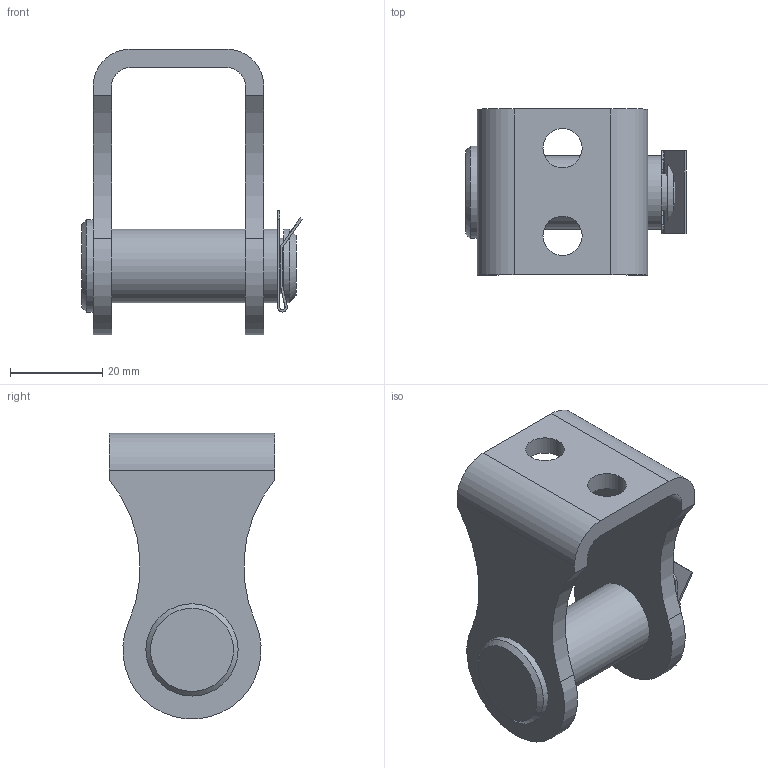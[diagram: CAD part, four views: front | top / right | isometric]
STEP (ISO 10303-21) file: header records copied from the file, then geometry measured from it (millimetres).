
FILE_DESCRIPTION(/* description */ (''),/* implementation_level */ '2;1');
FILE_NAME(/* name */ 'G:\3D-Zeichnungen\Easy-E-line\Beschläge\montiert\Step\EEL900BA60-3KS.stp',/* time_stamp */ '2019-07-17T11:12:20+02:00',/* author */ ('cadneu2'),/* organization */ (''),/* preprocessor_version */ 'ST-DEVELOPER v16.1',/* originating_system */ 'Autodesk Inventor 2016',/* authorisation */ '');
FILE_SCHEMA (('AUTOMOTIVE_DESIGN { 1 0 10303 214 3 1 1 }'));
Length unit declared in the file: millimetre
Products named in the file (4): EEL900BA60U3KS; EEL60-BO-KST-46.5; 63790901; EEL900BA60-3KS
Assembly tree (3 placements, depth 2):
  EEL900BA60-3KS
    EEL900BA60U3KS
    EEL60-BO-KST-46.5
    63790901
Bounding box: 47.85 x 36 x 61.94 mm (x, y, z)
Volume: 24547.3 mm3; surface area: 13597.3 mm2
Topology: 3 solids, 3 shells, 68 faces, 179 edges, 118 vertices
Faces by surface type: plane 36, cylinder 30, cone 2
Full cylindrical faces by diameter (mm): 8.5 x2, 12 x1, 16 x4, 20 x1
Entity records: 2164 total; most frequent: DIRECTION 381, CARTESIAN_POINT 363, ORIENTED_EDGE 334, EDGE_CURVE 167, AXIS2_PLACEMENT_3D 140, VERTEX_POINT 116, LINE 101, VECTOR 101
